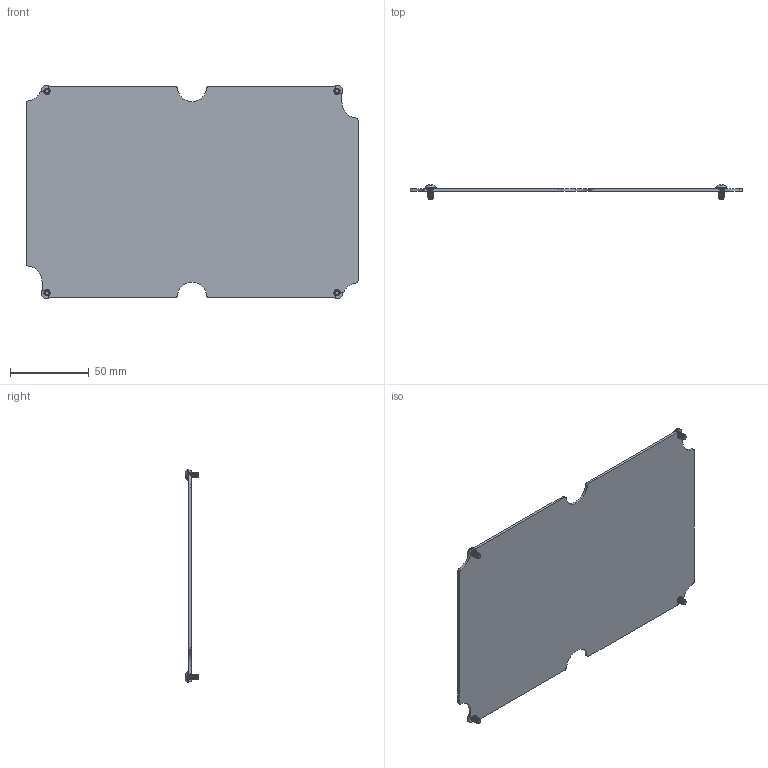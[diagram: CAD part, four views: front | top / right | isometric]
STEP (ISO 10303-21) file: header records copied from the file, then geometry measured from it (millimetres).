
FILE_DESCRIPTION (( 'STEP AP214' ), '1' );
FILE_NAME ('AN-07K.step', '2026-09-17T19:31:54', ( '' ), ( '' ), 'SwSTEP 2.0', 'SolidWorks 2026', '' );
FILE_SCHEMA (( 'AUTOMOTIVE_DESIGN' ));
Length unit declared in the file: inch
Products named in the file (3): AN-07K; AN-07-P_DEFAULT; SCREWS-050
Assembly tree (5 placements, depth 2):
  AN-07K
    AN-07-P_DEFAULT
    SCREWS-050  x4
Bounding box: 210.8 x 8.8 x 135.06 mm (x, y, z)
Volume: 42237.8 mm3; surface area: 56740.9 mm2
Topology: 5 solids, 5 shells, 1387 faces, 3363 edges, 1982 vertices
Faces by surface type: bspline 736, cylinder 343, plane 116, sphere 96, cone 80, torus 16
Entity records: 17971 total; most frequent: CARTESIAN_POINT 10163, ORIENTED_EDGE 1880, DIRECTION 1160, EDGE_CURVE 940, VERTEX_POINT 563, AXIS2_PLACEMENT_3D 429, B_SPLINE_CURVE_WITH_KNOTS 415, EDGE_LOOP 383
